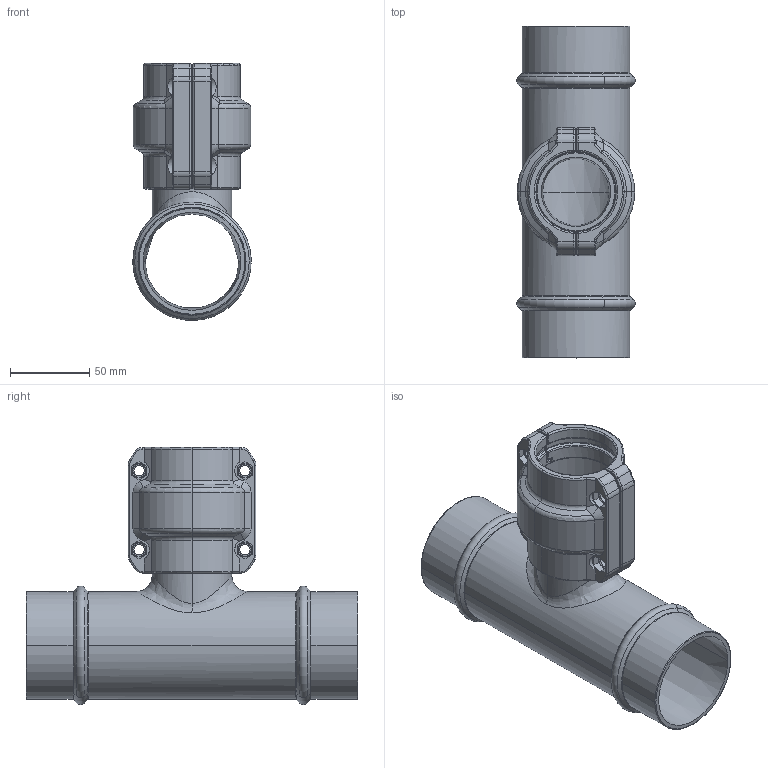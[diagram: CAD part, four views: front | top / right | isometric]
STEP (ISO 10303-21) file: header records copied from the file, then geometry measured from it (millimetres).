
FILE_DESCRIPTION(/* description */ (''),/* implementation_level */ '2;1');
FILE_NAME(/* name */ '6507_stp_stp.stp',/* time_stamp */ '2025-06-23T12:46:33+08:00',/* author */ (''),/* organization */ (''),/* preprocessor_version */ 'ST-DEVELOPER v11',/* originating_system */ 'SIEMENS PLM Software NX 7.5',/* authorisation */ '');
FILE_SCHEMA (('CONFIG_CONTROL_DESIGN'));
Length unit declared in the file: millimetre
Products named in the file (1): AdmiCFA3ahsg
Bounding box: 74.98 x 210 x 162.74 mm (x, y, z)
Volume: 276804.4 mm3; surface area: 144887.5 mm2
Topology: 3 solids, 3 shells, 646 faces, 1549 edges, 905 vertices
Faces by surface type: cylinder 209, torus 158, bspline 116, plane 83, cone 68, sphere 12
Entity records: 24953 total; most frequent: CARTESIAN_POINT 10834, ORIENTED_EDGE 3082, DIRECTION 2744, EDGE_CURVE 1541, AXIS2_PLACEMENT_3D 1139, VERTEX_POINT 905, EDGE_LOOP 670, ADVANCED_FACE 646
